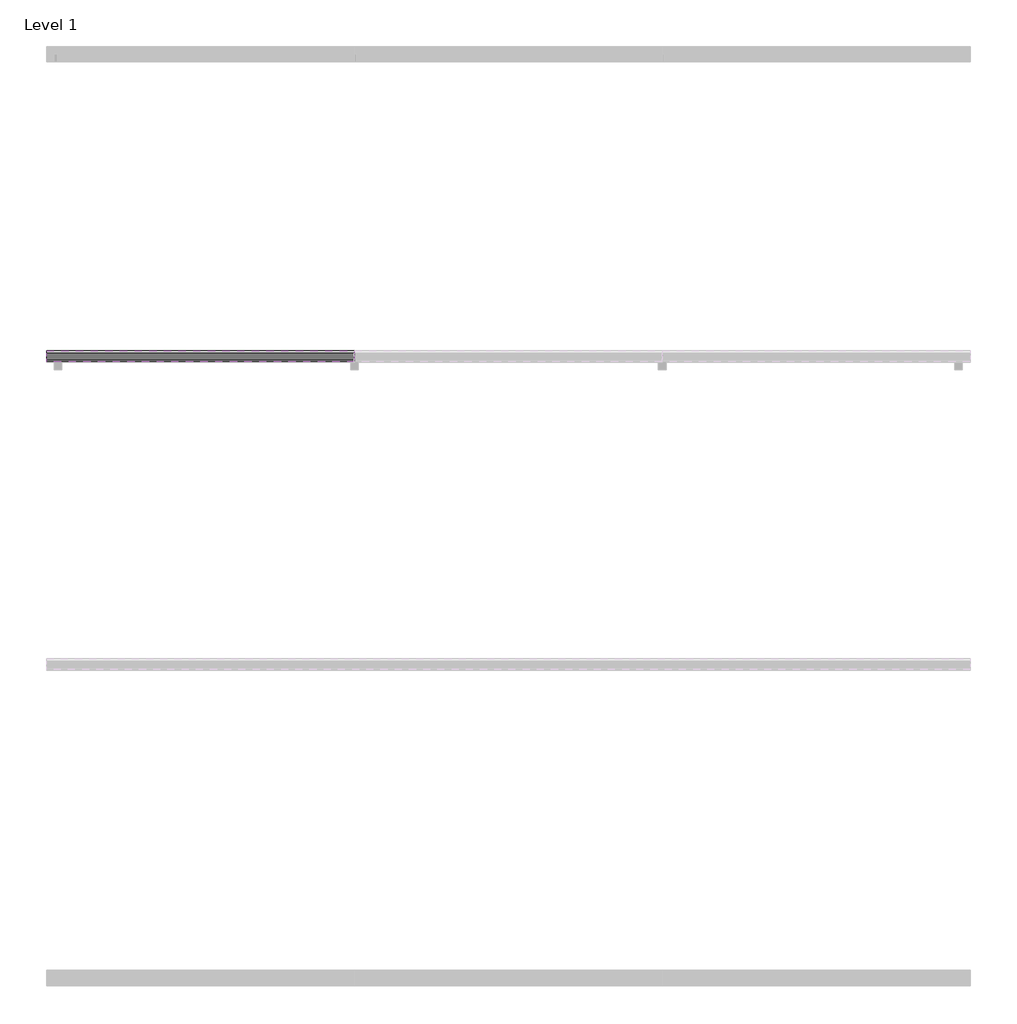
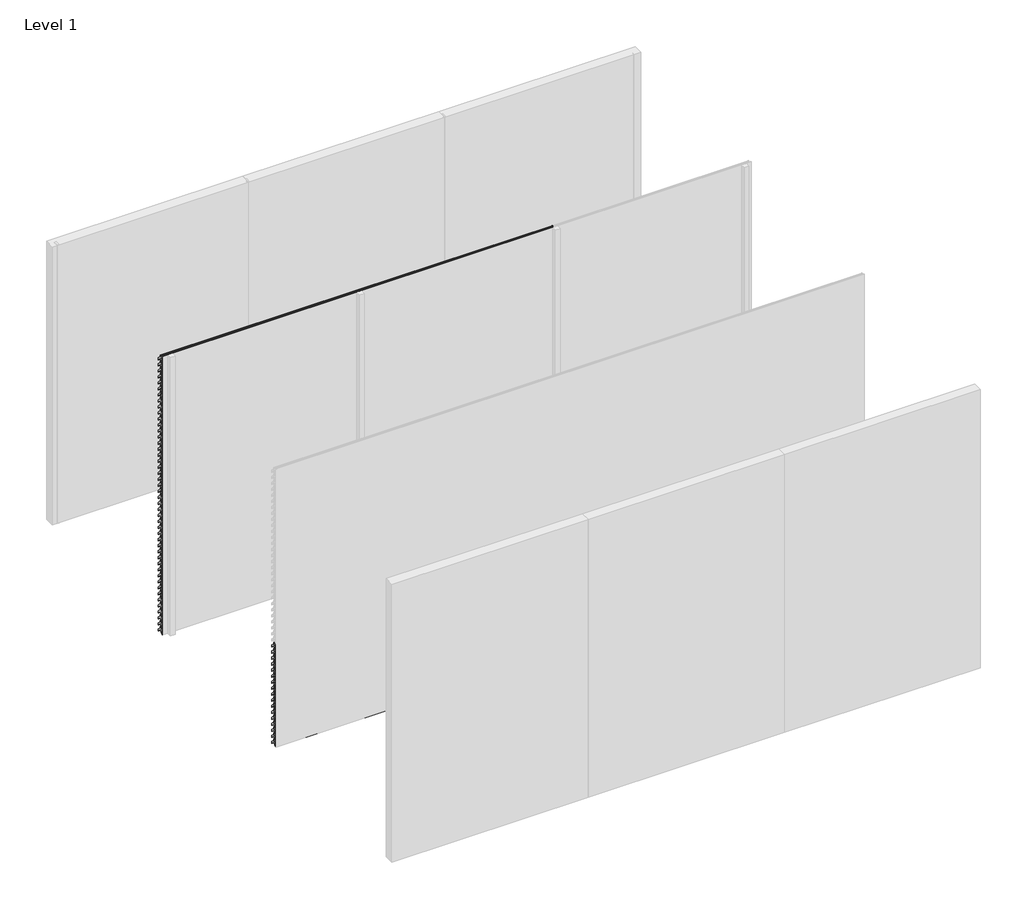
# One storey, part 4 of 9: 86 proxies.
"""IFC4 building model written with IfcOpenShell, lengths in millimetres."""

import ifcopenshell
import ifcopenshell.guid

model = None  # the IFC model being written
_history = None  # IfcOwnerHistory: only IFC2X3 demands one
_inside = {}  # id of a spatial element -> (the spatial element, [elements in it])
_under = {}  # id of a project, library or spatial element -> (it, [spatial elements below it])
_declared = {}  # id of a project -> (the project, [libraries it declares])
_typed = {}  # id of a type object -> (the type object, [elements of that type])
_made_of = {}  # id of a material, layer set ... -> (it, [elements and type objects made of it])


def new_model(schema):
    """Start an empty IFC model of exactly this schema.

    Asked for "IFC4X3", IfcOpenShell would pick the latest addendum, in which some entities
    have other attributes; the version numbers below select the first issue.
    IFC2X3 requires an IfcOwnerHistory on every rooted entity: one is made here for all.
    """
    global model, _history
    if schema == "IFC4X3":
        model = ifcopenshell.file(schema_version=(4, 3, 0, 0))
    else:
        model = ifcopenshell.file(schema=schema)
    _inside.clear()
    _under.clear()
    _declared.clear()
    _typed.clear()
    _made_of.clear()
    _history = None
    if model.schema == "IFC2X3":
        org = make("IfcOrganization", Name="unknown")
        user = make(
            "IfcPersonAndOrganization",
            ThePerson=make("IfcPerson", FamilyName="unknown"),
            TheOrganization=org,
        )
        app = make(
            "IfcApplication",
            ApplicationDeveloper=org,
            Version="unknown",
            ApplicationFullName="unknown",
            ApplicationIdentifier="unknown",
        )
        _history = make(
            "IfcOwnerHistory",
            OwningUser=user,
            OwningApplication=app,
            ChangeAction="ADDED",
            CreationDate=0,
        )
    return model


def make(cls, **values):
    """One entity of the class cls with the attributes given. An attribute that is None is left unset."""
    return model.create_entity(
        cls, **{name: value for name, value in values.items() if value is not None}
    )


def rooted(cls, **values):
    """An entity with a GlobalId (a new one), such as an element, a storey or a relation."""
    return make(cls, GlobalId=ifcopenshell.guid.new(), OwnerHistory=_history, **values)


def si_unit(unit_type, name, prefix=None):
    """IfcSIUnit, for example si_unit("LENGTHUNIT", "METRE", prefix="MILLI")."""
    return make("IfcSIUnit", UnitType=unit_type, Prefix=prefix, Name=name)


def assignment(units):
    """IfcUnitAssignment: the units of a project."""
    return None if units is None else make("IfcUnitAssignment", Units=units)


def point(xyz):
    """IfcCartesianPoint."""
    return None if xyz is None else make("IfcCartesianPoint", Coordinates=xyz)


def direction(xyz):
    """IfcDirection."""
    return None if xyz is None else make("IfcDirection", DirectionRatios=xyz)


def frame(location, z_axis=None, x_axis=None):
    """IfcAxis2Placement3D, a coordinate frame: its origin and axes. An axis left out is left unset."""
    return make(
        "IfcAxis2Placement3D",
        Location=point(location),
        Axis=direction(z_axis),
        RefDirection=direction(x_axis),
    )


def origin():
    """The frame at (0, 0, 0) with its axes left unset."""
    return frame((0.0, 0.0, 0.0))


def place(relative_to, where):
    """IfcLocalPlacement: puts the frame where relative to a parent placement (None: the world)."""
    return make(
        "IfcLocalPlacement", PlacementRelTo=relative_to, RelativePlacement=where
    )


def context(
    kind, dimensions, precision=None, world=None, true_north=None, identifier=None
):
    """IfcGeometricRepresentationContext, for example the 3D "Model" context."""
    return make(
        "IfcGeometricRepresentationContext",
        ContextIdentifier=identifier,
        ContextType=kind,
        CoordinateSpaceDimension=dimensions,
        Precision=precision,
        WorldCoordinateSystem=world,
        TrueNorth=true_north,
    )


def project(units=None, contexts=None):
    """IfcProject with its units and contexts."""
    return rooted(
        "IfcProject",
        Name="project",
        RepresentationContexts=contexts,
        UnitsInContext=assignment(units),
    )


def spatial(cls, under=None, at=None, **own):
    """A site, building, storey or space (cls), placed at a placement, below another one or the project."""
    s = rooted(cls, ObjectPlacement=at, **own)
    if under is not None:
        _under.setdefault(under.id(), (under, []))[1].append(s)
    return s


def polyline(points):
    """IfcPolyline through the points."""
    return make("IfcPolyline", Points=[point(p) for p in points])


def outline(outer, holes=None, kind="AREA"):
    """IfcArbitraryClosedProfileDef: a profile drawn as a closed curve; with holes, ...WithVoids."""
    if holes is None:
        return make("IfcArbitraryClosedProfileDef", ProfileType=kind, OuterCurve=outer)
    return make(
        "IfcArbitraryProfileDefWithVoids",
        ProfileType=kind,
        OuterCurve=outer,
        InnerCurves=holes,
    )


def extrude(swept, where, along, depth):
    """IfcExtrudedAreaSolid: the profile swept, set in the frame where, extruded along a direction by depth."""
    return make(
        "IfcExtrudedAreaSolid",
        SweptArea=swept,
        Position=where,
        ExtrudedDirection=direction(along),
        Depth=depth,
    )


def shape(context_of_items, identifier, shape_type, items):
    """IfcShapeRepresentation: the items that make up one representation, for example the "Body"."""
    return make(
        "IfcShapeRepresentation",
        ContextOfItems=context_of_items,
        RepresentationIdentifier=identifier,
        RepresentationType=shape_type,
        Items=items,
    )


def made_of(thing, what):
    """Note that an element or type object is made of a material, layer set ...; save() writes the relation."""
    if what is not None:
        _made_of.setdefault(what.id(), (what, []))[1].append(thing)
    return thing


def element(
    cls,
    number,
    at=None,
    inside=None,
    cuts=None,
    type_object=None,
    material=None,
    context=None,
    identifier="Body",
    shape_type=None,
    held_by="IfcProductDefinitionShape",
    body=None,
    shapes=None,
    **own,
):
    """One element of the class cls, such as IfcWall. Its Tag is "e" and its number.

    at: its placement. inside: the storey or other place that contains it. cuts: it is an
    opening in that element (IfcRelVoidsElement). A single representation is given by context,
    identifier, shape_type and body (its items); several are given by shapes. held_by: the class
    of the entity that holds the representations. save() writes the other relations.
    """
    e = rooted(cls, Tag="e%d" % number, ObjectPlacement=at, **own)
    if body is not None:
        shapes = [shape(context, identifier, shape_type, body)]
    if shapes is not None:
        e.Representation = make(held_by, Representations=shapes)
    if inside is not None:
        _inside.setdefault(inside.id(), (inside, []))[1].append(e)
    if cuts is not None:
        rooted(
            "IfcRelVoidsElement", RelatingBuildingElement=cuts, RelatedOpeningElement=e
        )
    if type_object is not None:
        _typed.setdefault(type_object.id(), (type_object, []))[1].append(e)
    return made_of(e, material)


def aggregate(whole, parts):
    """IfcRelAggregates: a whole, such as a stair, and the parts it consists of."""
    return rooted("IfcRelAggregates", RelatingObject=whole, RelatedObjects=parts)


def save(model, path):
    """Write the relations noted so far, then the file.

    IfcRelAggregates (storeys below a building ...), IfcRelContainedInSpatialStructure (elements
    in a storey), IfcRelDefinesByType, IfcRelAssociatesMaterial and IfcRelDeclares: one each for
    every whole, place, type object, material and project.
    """
    for whole, parts in _under.values():
        aggregate(whole, parts)
    for where, things in _inside.values():
        rooted(
            "IfcRelContainedInSpatialStructure",
            RelatedElements=things,
            RelatingStructure=where,
        )
    for kind, things in _typed.values():
        rooted("IfcRelDefinesByType", RelatedObjects=things, RelatingType=kind)
    for what, things in _made_of.values():
        rooted("IfcRelAssociatesMaterial", RelatedObjects=things, RelatingMaterial=what)
    for by, libraries in _declared.values():
        rooted("IfcRelDeclares", RelatingContext=by, RelatedDefinitions=libraries)
    model.write(path)


model = new_model("IFC4")

# Units and contexts
model_context = context("Model", 3, world=origin())
ifc_project = project(units=[si_unit("LENGTHUNIT", "METRE", prefix="MILLI")], contexts=[model_context])

# Site, building, storey
site = spatial("IfcSite", under=ifc_project)
building = spatial("IfcBuilding", under=site)
storey = spatial("IfcBuildingStorey", under=building, Name="Level 1", Elevation=0.0)

# Proxies
placement = place(None, origin())
element("IfcBuildingElementProxy", 1, Name="Wall Sweeps", at=placement, inside=storey, context=model_context, shape_type="SweptSolid", body=[
    extrude(outline(polyline([(-11926.0, 2942.0), (-11926.0, 2919.0), (-11961.5, 2954.5), (-11997.0, 2919.0), (-11997.0, 2942.0), (-11962.5, 2976.5), (-11962.5, 2990.0), (-11960.5, 2990.0), (-11960.5, 2976.5), (-11926.0, 2942.0)])), frame((0.0, 0.0, 0.0), z_axis=(1.0, 0.0, 0.0), x_axis=(0.0, 1.0, 0.0)), (0.0, 0.0, 1.0), 2000.0),
])
element("IfcBuildingElementProxy", 2, Name="Wall Sweeps", at=placement, inside=storey, context=model_context, shape_type="SweptSolid", body=[
    extrude(outline(polyline([(-11926.0, 2877.0), (-11926.0, 2854.0), (-11961.5, 2889.5), (-11997.0, 2854.0), (-11997.0, 2877.0), (-11962.5, 2911.5), (-11962.5, 2925.0), (-11960.5, 2925.0), (-11960.5, 2911.5), (-11926.0, 2877.0)])), frame((0.0, 0.0, 0.0), z_axis=(1.0, 0.0, 0.0), x_axis=(0.0, 1.0, 0.0)), (0.0, 0.0, 1.0), 2000.0),
])
element("IfcBuildingElementProxy", 3, Name="Wall Sweeps", at=placement, inside=storey, context=model_context, shape_type="SweptSolid", body=[
    extrude(outline(polyline([(-11926.0, 2812.0), (-11926.0, 2789.0), (-11961.5, 2824.5), (-11997.0, 2789.0), (-11997.0, 2812.0), (-11962.5, 2846.5), (-11962.5, 2860.0), (-11960.5, 2860.0), (-11960.5, 2846.5), (-11926.0, 2812.0)])), frame((0.0, 0.0, 0.0), z_axis=(1.0, 0.0, 0.0), x_axis=(0.0, 1.0, 0.0)), (0.0, 0.0, 1.0), 2000.0),
])
element("IfcBuildingElementProxy", 4, Name="Wall Sweeps", at=placement, inside=storey, context=model_context, shape_type="SweptSolid", body=[
    extrude(outline(polyline([(-11926.0, 2747.0), (-11926.0, 2724.0), (-11961.5, 2759.5), (-11997.0, 2724.0), (-11997.0, 2747.0), (-11962.5, 2781.5), (-11962.5, 2795.0), (-11960.5, 2795.0), (-11960.5, 2781.5), (-11926.0, 2747.0)])), frame((0.0, 0.0, 0.0), z_axis=(1.0, 0.0, 0.0), x_axis=(0.0, 1.0, 0.0)), (0.0, 0.0, 1.0), 2000.0),
])
element("IfcBuildingElementProxy", 5, Name="Wall Sweeps", at=placement, inside=storey, context=model_context, shape_type="SweptSolid", body=[
    extrude(outline(polyline([(-11926.0, 2682.0), (-11926.0, 2659.0), (-11961.5, 2694.5), (-11997.0, 2659.0), (-11997.0, 2682.0), (-11962.5, 2716.5), (-11962.5, 2730.0), (-11960.5, 2730.0), (-11960.5, 2716.5), (-11926.0, 2682.0)])), frame((0.0, 0.0, 0.0), z_axis=(1.0, 0.0, 0.0), x_axis=(0.0, 1.0, 0.0)), (0.0, 0.0, 1.0), 2000.0),
])
element("IfcBuildingElementProxy", 6, Name="Wall Sweeps", at=placement, inside=storey, context=model_context, shape_type="SweptSolid", body=[
    extrude(outline(polyline([(-11926.0, 2617.0), (-11926.0, 2594.0), (-11961.5, 2629.5), (-11997.0, 2594.0), (-11997.0, 2617.0), (-11962.5, 2651.5), (-11962.5, 2665.0), (-11960.5, 2665.0), (-11960.5, 2651.5), (-11926.0, 2617.0)])), frame((0.0, 0.0, 0.0), z_axis=(1.0, 0.0, 0.0), x_axis=(0.0, 1.0, 0.0)), (0.0, 0.0, 1.0), 2000.0),
])
element("IfcBuildingElementProxy", 7, Name="Wall Sweeps", at=placement, inside=storey, context=model_context, shape_type="SweptSolid", body=[
    extrude(outline(polyline([(-11926.0, 2552.0), (-11926.0, 2529.0), (-11961.5, 2564.5), (-11997.0, 2529.0), (-11997.0, 2552.0), (-11962.5, 2586.5), (-11962.5, 2600.0), (-11960.5, 2600.0), (-11960.5, 2586.5), (-11926.0, 2552.0)])), frame((0.0, 0.0, 0.0), z_axis=(1.0, 0.0, 0.0), x_axis=(0.0, 1.0, 0.0)), (0.0, 0.0, 1.0), 2000.0),
])
element("IfcBuildingElementProxy", 8, Name="Wall Sweeps", at=placement, inside=storey, context=model_context, shape_type="SweptSolid", body=[
    extrude(outline(polyline([(-11926.0, 2487.0), (-11926.0, 2464.0), (-11961.5, 2499.5), (-11997.0, 2464.0), (-11997.0, 2487.0), (-11962.5, 2521.5), (-11962.5, 2535.0), (-11960.5, 2535.0), (-11960.5, 2521.5), (-11926.0, 2487.0)])), frame((0.0, 0.0, 0.0), z_axis=(1.0, 0.0, 0.0), x_axis=(0.0, 1.0, 0.0)), (0.0, 0.0, 1.0), 2000.0),
])
element("IfcBuildingElementProxy", 9, Name="Wall Sweeps", at=placement, inside=storey, context=model_context, shape_type="SweptSolid", body=[
    extrude(outline(polyline([(-11926.0, 2422.0), (-11926.0, 2399.0), (-11961.5, 2434.5), (-11997.0, 2399.0), (-11997.0, 2422.0), (-11962.5, 2456.5), (-11962.5, 2470.0), (-11960.5, 2470.0), (-11960.5, 2456.5), (-11926.0, 2422.0)])), frame((0.0, 0.0, 0.0), z_axis=(1.0, 0.0, 0.0), x_axis=(0.0, 1.0, 0.0)), (0.0, 0.0, 1.0), 2000.0),
])
element("IfcBuildingElementProxy", 10, Name="Wall Sweeps", at=placement, inside=storey, context=model_context, shape_type="SweptSolid", body=[
    extrude(outline(polyline([(-11926.0, 2357.0), (-11926.0, 2334.0), (-11961.5, 2369.5), (-11997.0, 2334.0), (-11997.0, 2357.0), (-11962.5, 2391.5), (-11962.5, 2405.0), (-11960.5, 2405.0), (-11960.5, 2391.5), (-11926.0, 2357.0)])), frame((0.0, 0.0, 0.0), z_axis=(1.0, 0.0, 0.0), x_axis=(0.0, 1.0, 0.0)), (0.0, 0.0, 1.0), 2000.0),
])
element("IfcBuildingElementProxy", 11, Name="Wall Sweeps", at=placement, inside=storey, context=model_context, shape_type="SweptSolid", body=[
    extrude(outline(polyline([(-11926.0, 2292.0), (-11926.0, 2269.0), (-11961.5, 2304.5), (-11997.0, 2269.0), (-11997.0, 2292.0), (-11962.5, 2326.5), (-11962.5, 2340.0), (-11960.5, 2340.0), (-11960.5, 2326.5), (-11926.0, 2292.0)])), frame((0.0, 0.0, 0.0), z_axis=(1.0, 0.0, 0.0), x_axis=(0.0, 1.0, 0.0)), (0.0, 0.0, 1.0), 2000.0),
])
element("IfcBuildingElementProxy", 12, Name="Wall Sweeps", at=placement, inside=storey, context=model_context, shape_type="SweptSolid", body=[
    extrude(outline(polyline([(-11926.0, 2227.0), (-11926.0, 2204.0), (-11961.5, 2239.5), (-11997.0, 2204.0), (-11997.0, 2227.0), (-11962.5, 2261.5), (-11962.5, 2275.0), (-11960.5, 2275.0), (-11960.5, 2261.5), (-11926.0, 2227.0)])), frame((0.0, 0.0, 0.0), z_axis=(1.0, 0.0, 0.0), x_axis=(0.0, 1.0, 0.0)), (0.0, 0.0, 1.0), 2000.0),
])
element("IfcBuildingElementProxy", 13, Name="Wall Sweeps", at=placement, inside=storey, context=model_context, shape_type="SweptSolid", body=[
    extrude(outline(polyline([(-11926.0, 2162.0), (-11926.0, 2139.0), (-11961.5, 2174.5), (-11997.0, 2139.0), (-11997.0, 2162.0), (-11962.5, 2196.5), (-11962.5, 2210.0), (-11960.5, 2210.0), (-11960.5, 2196.5), (-11926.0, 2162.0)])), frame((0.0, 0.0, 0.0), z_axis=(1.0, 0.0, 0.0), x_axis=(0.0, 1.0, 0.0)), (0.0, 0.0, 1.0), 2000.0),
])
element("IfcBuildingElementProxy", 14, Name="Wall Sweeps", at=placement, inside=storey, context=model_context, shape_type="SweptSolid", body=[
    extrude(outline(polyline([(-11926.0, 2097.0), (-11926.0, 2074.0), (-11961.5, 2109.5), (-11997.0, 2074.0), (-11997.0, 2097.0), (-11962.5, 2131.5), (-11962.5, 2145.0), (-11960.5, 2145.0), (-11960.5, 2131.5), (-11926.0, 2097.0)])), frame((0.0, 0.0, 0.0), z_axis=(1.0, 0.0, 0.0), x_axis=(0.0, 1.0, 0.0)), (0.0, 0.0, 1.0), 2000.0),
])
element("IfcBuildingElementProxy", 15, Name="Wall Sweeps", at=placement, inside=storey, context=model_context, shape_type="SweptSolid", body=[
    extrude(outline(polyline([(-11926.0, 2032.0), (-11926.0, 2009.0), (-11961.5, 2044.5), (-11997.0, 2009.0), (-11997.0, 2032.0), (-11962.5, 2066.5), (-11962.5, 2080.0), (-11960.5, 2080.0), (-11960.5, 2066.5), (-11926.0, 2032.0)])), frame((0.0, 0.0, 0.0), z_axis=(1.0, 0.0, 0.0), x_axis=(0.0, 1.0, 0.0)), (0.0, 0.0, 1.0), 2000.0),
])
element("IfcBuildingElementProxy", 16, Name="Wall Sweeps", at=placement, inside=storey, context=model_context, shape_type="SweptSolid", body=[
    extrude(outline(polyline([(-11926.0, 1967.0), (-11926.0, 1944.0), (-11961.5, 1979.5), (-11997.0, 1944.0), (-11997.0, 1967.0), (-11962.5, 2001.5), (-11962.5, 2015.0), (-11960.5, 2015.0), (-11960.5, 2001.5), (-11926.0, 1967.0)])), frame((0.0, 0.0, 0.0), z_axis=(1.0, 0.0, 0.0), x_axis=(0.0, 1.0, 0.0)), (0.0, 0.0, 1.0), 2000.0),
])
element("IfcBuildingElementProxy", 17, Name="Wall Sweeps", at=placement, inside=storey, context=model_context, shape_type="SweptSolid", body=[
    extrude(outline(polyline([(-11926.0, 1902.0), (-11926.0, 1879.0), (-11961.5, 1914.5), (-11997.0, 1879.0), (-11997.0, 1902.0), (-11962.5, 1936.5), (-11962.5, 1950.0), (-11960.5, 1950.0), (-11960.5, 1936.5), (-11926.0, 1902.0)])), frame((0.0, 0.0, 0.0), z_axis=(1.0, 0.0, 0.0), x_axis=(0.0, 1.0, 0.0)), (0.0, 0.0, 1.0), 2000.0),
])
element("IfcBuildingElementProxy", 18, Name="Wall Sweeps", at=placement, inside=storey, context=model_context, shape_type="SweptSolid", body=[
    extrude(outline(polyline([(-11926.0, 1837.0), (-11926.0, 1814.0), (-11961.5, 1849.5), (-11997.0, 1814.0), (-11997.0, 1837.0), (-11962.5, 1871.5), (-11962.5, 1885.0), (-11960.5, 1885.0), (-11960.5, 1871.5), (-11926.0, 1837.0)])), frame((0.0, 0.0, 0.0), z_axis=(1.0, 0.0, 0.0), x_axis=(0.0, 1.0, 0.0)), (0.0, 0.0, 1.0), 2000.0),
])
element("IfcBuildingElementProxy", 19, Name="Wall Sweeps", at=placement, inside=storey, context=model_context, shape_type="SweptSolid", body=[
    extrude(outline(polyline([(-11926.0, 1772.0), (-11926.0, 1749.0), (-11961.5, 1784.5), (-11997.0, 1749.0), (-11997.0, 1772.0), (-11962.5, 1806.5), (-11962.5, 1820.0), (-11960.5, 1820.0), (-11960.5, 1806.5), (-11926.0, 1772.0)])), frame((0.0, 0.0, 0.0), z_axis=(1.0, 0.0, 0.0), x_axis=(0.0, 1.0, 0.0)), (0.0, 0.0, 1.0), 2000.0),
])
element("IfcBuildingElementProxy", 20, Name="Wall Sweeps", at=placement, inside=storey, context=model_context, shape_type="SweptSolid", body=[
    extrude(outline(polyline([(-11926.0, 1707.0), (-11926.0, 1684.0), (-11961.5, 1719.5), (-11997.0, 1684.0), (-11997.0, 1707.0), (-11962.5, 1741.5), (-11962.5, 1755.0), (-11960.5, 1755.0), (-11960.5, 1741.5), (-11926.0, 1707.0)])), frame((0.0, 0.0, 0.0), z_axis=(1.0, 0.0, 0.0), x_axis=(0.0, 1.0, 0.0)), (0.0, 0.0, 1.0), 2000.0),
])
element("IfcBuildingElementProxy", 21, Name="Wall Sweeps", at=placement, inside=storey, context=model_context, shape_type="SweptSolid", body=[
    extrude(outline(polyline([(-11926.0, 1642.0), (-11926.0, 1619.0), (-11961.5, 1654.5), (-11997.0, 1619.0), (-11997.0, 1642.0), (-11962.5, 1676.5), (-11962.5, 1690.0), (-11960.5, 1690.0), (-11960.5, 1676.5), (-11926.0, 1642.0)])), frame((0.0, 0.0, 0.0), z_axis=(1.0, 0.0, 0.0), x_axis=(0.0, 1.0, 0.0)), (0.0, 0.0, 1.0), 2000.0),
])
element("IfcBuildingElementProxy", 22, Name="Wall Sweeps", at=placement, inside=storey, context=model_context, shape_type="SweptSolid", body=[
    extrude(outline(polyline([(-11926.0, 1577.0), (-11926.0, 1554.0), (-11961.5, 1589.5), (-11997.0, 1554.0), (-11997.0, 1577.0), (-11962.5, 1611.5), (-11962.5, 1625.0), (-11960.5, 1625.0), (-11960.5, 1611.5), (-11926.0, 1577.0)])), frame((0.0, 0.0, 0.0), z_axis=(1.0, 0.0, 0.0), x_axis=(0.0, 1.0, 0.0)), (0.0, 0.0, 1.0), 2000.0),
])
element("IfcBuildingElementProxy", 23, Name="Wall Sweeps", at=placement, inside=storey, context=model_context, shape_type="SweptSolid", body=[
    extrude(outline(polyline([(-11926.0, 1512.0), (-11926.0, 1489.0), (-11961.5, 1524.5), (-11997.0, 1489.0), (-11997.0, 1512.0), (-11962.5, 1546.5), (-11962.5, 1560.0), (-11960.5, 1560.0), (-11960.5, 1546.5), (-11926.0, 1512.0)])), frame((0.0, 0.0, 0.0), z_axis=(1.0, 0.0, 0.0), x_axis=(0.0, 1.0, 0.0)), (0.0, 0.0, 1.0), 2000.0),
])
element("IfcBuildingElementProxy", 24, Name="Wall Sweeps", at=placement, inside=storey, context=model_context, shape_type="SweptSolid", body=[
    extrude(outline(polyline([(-11926.0, 1447.0), (-11926.0, 1424.0), (-11961.5, 1459.5), (-11997.0, 1424.0), (-11997.0, 1447.0), (-11962.5, 1481.5), (-11962.5, 1495.0), (-11960.5, 1495.0), (-11960.5, 1481.5), (-11926.0, 1447.0)])), frame((0.0, 0.0, 0.0), z_axis=(1.0, 0.0, 0.0), x_axis=(0.0, 1.0, 0.0)), (0.0, 0.0, 1.0), 2000.0),
])
element("IfcBuildingElementProxy", 25, Name="Wall Sweeps", at=placement, inside=storey, context=model_context, shape_type="SweptSolid", body=[
    extrude(outline(polyline([(-11926.0, 1382.0), (-11926.0, 1359.0), (-11961.5, 1394.5), (-11997.0, 1359.0), (-11997.0, 1382.0), (-11962.5, 1416.5), (-11962.5, 1430.0), (-11960.5, 1430.0), (-11960.5, 1416.5), (-11926.0, 1382.0)])), frame((0.0, 0.0, 0.0), z_axis=(1.0, 0.0, 0.0), x_axis=(0.0, 1.0, 0.0)), (0.0, 0.0, 1.0), 2000.0),
])
element("IfcBuildingElementProxy", 26, Name="Wall Sweeps", at=placement, inside=storey, context=model_context, shape_type="SweptSolid", body=[
    extrude(outline(polyline([(-11926.0, 1317.0), (-11926.0, 1294.0), (-11961.5, 1329.5), (-11997.0, 1294.0), (-11997.0, 1317.0), (-11962.5, 1351.5), (-11962.5, 1365.0), (-11960.5, 1365.0), (-11960.5, 1351.5), (-11926.0, 1317.0)])), frame((0.0, 0.0, 0.0), z_axis=(1.0, 0.0, 0.0), x_axis=(0.0, 1.0, 0.0)), (0.0, 0.0, 1.0), 2000.0),
])
element("IfcBuildingElementProxy", 27, Name="Wall Sweeps", at=placement, inside=storey, context=model_context, shape_type="SweptSolid", body=[
    extrude(outline(polyline([(-11926.0, 1252.0), (-11926.0, 1229.0), (-11961.5, 1264.5), (-11997.0, 1229.0), (-11997.0, 1252.0), (-11962.5, 1286.5), (-11962.5, 1300.0), (-11960.5, 1300.0), (-11960.5, 1286.5), (-11926.0, 1252.0)])), frame((0.0, 0.0, 0.0), z_axis=(1.0, 0.0, 0.0), x_axis=(0.0, 1.0, 0.0)), (0.0, 0.0, 1.0), 2000.0),
])
element("IfcBuildingElementProxy", 28, Name="Wall Sweeps", at=placement, inside=storey, context=model_context, shape_type="SweptSolid", body=[
    extrude(outline(polyline([(-11926.0, 1187.0), (-11926.0, 1164.0), (-11961.5, 1199.5), (-11997.0, 1164.0), (-11997.0, 1187.0), (-11962.5, 1221.5), (-11962.5, 1235.0), (-11960.5, 1235.0), (-11960.5, 1221.5), (-11926.0, 1187.0)])), frame((0.0, 0.0, 0.0), z_axis=(1.0, 0.0, 0.0), x_axis=(0.0, 1.0, 0.0)), (0.0, 0.0, 1.0), 2000.0),
])
element("IfcBuildingElementProxy", 29, Name="Wall Sweeps", at=placement, inside=storey, context=model_context, shape_type="SweptSolid", body=[
    extrude(outline(polyline([(-11926.0, 1122.0), (-11926.0, 1099.0), (-11961.5, 1134.5), (-11997.0, 1099.0), (-11997.0, 1122.0), (-11962.5, 1156.5), (-11962.5, 1170.0), (-11960.5, 1170.0), (-11960.5, 1156.5), (-11926.0, 1122.0)])), frame((0.0, 0.0, 0.0), z_axis=(1.0, 0.0, 0.0), x_axis=(0.0, 1.0, 0.0)), (0.0, 0.0, 1.0), 2000.0),
])
element("IfcBuildingElementProxy", 30, Name="Wall Sweeps", at=placement, inside=storey, context=model_context, shape_type="SweptSolid", body=[
    extrude(outline(polyline([(-11926.0, 1057.0), (-11926.0, 1034.0), (-11961.5, 1069.5), (-11997.0, 1034.0), (-11997.0, 1057.0), (-11962.5, 1091.5), (-11962.5, 1105.0), (-11960.5, 1105.0), (-11960.5, 1091.5), (-11926.0, 1057.0)])), frame((0.0, 0.0, 0.0), z_axis=(1.0, 0.0, 0.0), x_axis=(0.0, 1.0, 0.0)), (0.0, 0.0, 1.0), 2000.0),
])
element("IfcBuildingElementProxy", 31, Name="Wall Sweeps", at=placement, inside=storey, context=model_context, shape_type="SweptSolid", body=[
    extrude(outline(polyline([(-11926.0, 992.0), (-11926.0, 969.0), (-11961.5, 1004.5), (-11997.0, 969.0), (-11997.0, 992.0), (-11962.5, 1026.5), (-11962.5, 1040.0), (-11960.5, 1040.0), (-11960.5, 1026.5), (-11926.0, 992.0)])), frame((0.0, 0.0, 0.0), z_axis=(1.0, 0.0, 0.0), x_axis=(0.0, 1.0, 0.0)), (0.0, 0.0, 1.0), 2000.0),
])
element("IfcBuildingElementProxy", 32, Name="Wall Sweeps", at=placement, inside=storey, context=model_context, shape_type="SweptSolid", body=[
    extrude(outline(polyline([(-11926.0, 927.0), (-11926.0, 904.0), (-11961.5, 939.5), (-11997.0, 904.0), (-11997.0, 927.0), (-11962.5, 961.5), (-11962.5, 975.0), (-11960.5, 975.0), (-11960.5, 961.5), (-11926.0, 927.0)])), frame((0.0, 0.0, 0.0), z_axis=(1.0, 0.0, 0.0), x_axis=(0.0, 1.0, 0.0)), (0.0, 0.0, 1.0), 2000.0),
])
element("IfcBuildingElementProxy", 33, Name="Wall Sweeps", at=placement, inside=storey, context=model_context, shape_type="SweptSolid", body=[
    extrude(outline(polyline([(-11926.0, 862.0), (-11926.0, 839.0), (-11961.5, 874.5), (-11997.0, 839.0), (-11997.0, 862.0), (-11962.5, 896.5), (-11962.5, 910.0), (-11960.5, 910.0), (-11960.5, 896.5), (-11926.0, 862.0)])), frame((0.0, 0.0, 0.0), z_axis=(1.0, 0.0, 0.0), x_axis=(0.0, 1.0, 0.0)), (0.0, 0.0, 1.0), 2000.0),
])
element("IfcBuildingElementProxy", 34, Name="Wall Sweeps", at=placement, inside=storey, context=model_context, shape_type="SweptSolid", body=[
    extrude(outline(polyline([(-11926.0, 797.0), (-11926.0, 774.0), (-11961.5, 809.5), (-11997.0, 774.0), (-11997.0, 797.0), (-11962.5, 831.5), (-11962.5, 845.0), (-11960.5, 845.0), (-11960.5, 831.5), (-11926.0, 797.0)])), frame((0.0, 0.0, 0.0), z_axis=(1.0, 0.0, 0.0), x_axis=(0.0, 1.0, 0.0)), (0.0, 0.0, 1.0), 2000.0),
])
element("IfcBuildingElementProxy", 35, Name="Wall Sweeps", at=placement, inside=storey, context=model_context, shape_type="SweptSolid", body=[
    extrude(outline(polyline([(-11926.0, 732.0), (-11926.0, 709.0), (-11961.5, 744.5), (-11997.0, 709.0), (-11997.0, 732.0), (-11962.5, 766.5), (-11962.5, 780.0), (-11960.5, 780.0), (-11960.5, 766.5), (-11926.0, 732.0)])), frame((0.0, 0.0, 0.0), z_axis=(1.0, 0.0, 0.0), x_axis=(0.0, 1.0, 0.0)), (0.0, 0.0, 1.0), 2000.0),
])
element("IfcBuildingElementProxy", 36, Name="Wall Sweeps", at=placement, inside=storey, context=model_context, shape_type="SweptSolid", body=[
    extrude(outline(polyline([(-11926.0, 667.0), (-11926.0, 644.0), (-11961.5, 679.5), (-11997.0, 644.0), (-11997.0, 667.0), (-11962.5, 701.5), (-11962.5, 715.0), (-11960.5, 715.0), (-11960.5, 701.5), (-11926.0, 667.0)])), frame((0.0, 0.0, 0.0), z_axis=(1.0, 0.0, 0.0), x_axis=(0.0, 1.0, 0.0)), (0.0, 0.0, 1.0), 2000.0),
])
element("IfcBuildingElementProxy", 37, Name="Wall Sweeps", at=placement, inside=storey, context=model_context, shape_type="SweptSolid", body=[
    extrude(outline(polyline([(-11926.0, 602.0), (-11926.0, 579.0), (-11961.5, 614.5), (-11997.0, 579.0), (-11997.0, 602.0), (-11962.5, 636.5), (-11962.5, 650.0), (-11960.5, 650.0), (-11960.5, 636.5), (-11926.0, 602.0)])), frame((0.0, 0.0, 0.0), z_axis=(1.0, 0.0, 0.0), x_axis=(0.0, 1.0, 0.0)), (0.0, 0.0, 1.0), 2000.0),
])
element("IfcBuildingElementProxy", 38, Name="Wall Sweeps", at=placement, inside=storey, context=model_context, shape_type="SweptSolid", body=[
    extrude(outline(polyline([(-11926.0, 537.0), (-11926.0, 514.0), (-11961.5, 549.5), (-11997.0, 514.0), (-11997.0, 537.0), (-11962.5, 571.5), (-11962.5, 585.0), (-11960.5, 585.0), (-11960.5, 571.5), (-11926.0, 537.0)])), frame((0.0, 0.0, 0.0), z_axis=(1.0, 0.0, 0.0), x_axis=(0.0, 1.0, 0.0)), (0.0, 0.0, 1.0), 2000.0),
])
element("IfcBuildingElementProxy", 39, Name="Wall Sweeps", at=placement, inside=storey, context=model_context, shape_type="SweptSolid", body=[
    extrude(outline(polyline([(-11926.0, 472.0), (-11926.0, 449.0), (-11961.5, 484.5), (-11997.0, 449.0), (-11997.0, 472.0), (-11962.5, 506.5), (-11962.5, 520.0), (-11960.5, 520.0), (-11960.5, 506.5), (-11926.0, 472.0)])), frame((0.0, 0.0, 0.0), z_axis=(1.0, 0.0, 0.0), x_axis=(0.0, 1.0, 0.0)), (0.0, 0.0, 1.0), 2000.0),
])
element("IfcBuildingElementProxy", 40, Name="Wall Sweeps", at=placement, inside=storey, context=model_context, shape_type="SweptSolid", body=[
    extrude(outline(polyline([(-11926.0, 407.0), (-11926.0, 384.0), (-11961.5, 419.5), (-11997.0, 384.0), (-11997.0, 407.0), (-11962.5, 441.5), (-11962.5, 455.0), (-11960.5, 455.0), (-11960.5, 441.5), (-11926.0, 407.0)])), frame((0.0, 0.0, 0.0), z_axis=(1.0, 0.0, 0.0), x_axis=(0.0, 1.0, 0.0)), (0.0, 0.0, 1.0), 2000.0),
])
element("IfcBuildingElementProxy", 41, Name="Wall Sweeps", at=placement, inside=storey, context=model_context, shape_type="SweptSolid", body=[
    extrude(outline(polyline([(-11926.0, 342.0), (-11926.0, 319.0), (-11961.5, 354.5), (-11997.0, 319.0), (-11997.0, 342.0), (-11962.5, 376.5), (-11962.5, 390.0), (-11960.5, 390.0), (-11960.5, 376.5), (-11926.0, 342.0)])), frame((0.0, 0.0, 0.0), z_axis=(1.0, 0.0, 0.0), x_axis=(0.0, 1.0, 0.0)), (0.0, 0.0, 1.0), 2000.0),
])
element("IfcBuildingElementProxy", 42, Name="Wall Sweeps", at=placement, inside=storey, context=model_context, shape_type="SweptSolid", body=[
    extrude(outline(polyline([(-11926.0, 277.0), (-11926.0, 254.0), (-11961.5, 289.5), (-11997.0, 254.0), (-11997.0, 277.0), (-11962.5, 311.5), (-11962.5, 325.0), (-11960.5, 325.0), (-11960.5, 311.5), (-11926.0, 277.0)])), frame((0.0, 0.0, 0.0), z_axis=(1.0, 0.0, 0.0), x_axis=(0.0, 1.0, 0.0)), (0.0, 0.0, 1.0), 2000.0),
])
element("IfcBuildingElementProxy", 43, Name="Wall Sweeps", at=placement, inside=storey, context=model_context, shape_type="SweptSolid", body=[
    extrude(outline(polyline([(-11926.0, 212.0), (-11926.0, 189.0), (-11961.5, 224.5), (-11997.0, 189.0), (-11997.0, 212.0), (-11962.5, 246.5), (-11962.5, 260.0), (-11960.5, 260.0), (-11960.5, 246.5), (-11926.0, 212.0)])), frame((0.0, 0.0, 0.0), z_axis=(1.0, 0.0, 0.0), x_axis=(0.0, 1.0, 0.0)), (0.0, 0.0, 1.0), 2000.0),
])
element("IfcBuildingElementProxy", 44, Name="Wall Sweeps", at=placement, inside=storey, context=model_context, shape_type="SweptSolid", body=[
    extrude(outline(polyline([(-11926.0, 147.0), (-11926.0, 124.0), (-11961.5, 159.5), (-11997.0, 124.0), (-11997.0, 147.0), (-11962.5, 181.5), (-11962.5, 195.0), (-11960.5, 195.0), (-11960.5, 181.5), (-11926.0, 147.0)])), frame((0.0, 0.0, 0.0), z_axis=(1.0, 0.0, 0.0), x_axis=(0.0, 1.0, 0.0)), (0.0, 0.0, 1.0), 2000.0),
])
element("IfcBuildingElementProxy", 45, Name="Wall Sweeps", at=placement, inside=storey, context=model_context, shape_type="SweptSolid", body=[
    extrude(outline(polyline([(-11926.0, 82.0), (-11926.0, 59.0), (-11961.5, 94.5), (-11997.0, 59.0), (-11997.0, 82.0), (-11962.5, 116.5), (-11962.5, 130.0), (-11960.5, 130.0), (-11960.5, 116.5), (-11926.0, 82.0)])), frame((0.0, 0.0, 0.0), z_axis=(1.0, 0.0, 0.0), x_axis=(0.0, 1.0, 0.0)), (0.0, 0.0, 1.0), 2000.0),
])
element("IfcBuildingElementProxy", 46, Name="Wall Sweeps", at=placement, inside=storey, context=model_context, shape_type="SweptSolid", body=[
    extrude(outline(polyline([(-11926.0, 17.0), (-11926.0, -6.0), (-11961.5, 29.5), (-11997.0, -6.0), (-11997.0, 17.0), (-11962.5, 51.5), (-11962.5, 65.0), (-11960.5, 65.0), (-11960.5, 51.5), (-11926.0, 17.0)])), frame((0.0, 0.0, 0.0), z_axis=(1.0, 0.0, 0.0), x_axis=(0.0, 1.0, 0.0)), (0.0, 0.0, 1.0), 2000.0),
])
element("IfcBuildingElementProxy", 47, Name="Wall Sweeps", at=placement, inside=storey, context=model_context, shape_type="SweptSolid", body=[
    extrude(outline(polyline([(-11926.0, 2942.0), (-11926.0, 2919.0), (-11961.5, 2954.5), (-11997.0, 2919.0), (-11997.0, 2942.0), (-11962.5, 2976.5), (-11962.5, 2990.0), (-11960.5, 2990.0), (-11960.5, 2976.5), (-11926.0, 2942.0)])), frame((2000.0, 0.0, 0.0), z_axis=(1.0, 0.0, 0.0), x_axis=(0.0, 1.0, 0.0)), (0.0, 0.0, 1.0), 2000.0),
])
element("IfcBuildingElementProxy", 48, Name="Wall Sweeps", at=placement, inside=storey, context=model_context, shape_type="SweptSolid", body=[
    extrude(outline(polyline([(-11926.0, 2877.0), (-11926.0, 2854.0), (-11961.5, 2889.5), (-11997.0, 2854.0), (-11997.0, 2877.0), (-11962.5, 2911.5), (-11962.5, 2925.0), (-11960.5, 2925.0), (-11960.5, 2911.5), (-11926.0, 2877.0)])), frame((2000.0, 0.0, 0.0), z_axis=(1.0, 0.0, 0.0), x_axis=(0.0, 1.0, 0.0)), (0.0, 0.0, 1.0), 2000.0),
])
element("IfcBuildingElementProxy", 49, Name="Wall Sweeps", at=placement, inside=storey, context=model_context, shape_type="SweptSolid", body=[
    extrude(outline(polyline([(-11926.0, 2812.0), (-11926.0, 2789.0), (-11961.5, 2824.5), (-11997.0, 2789.0), (-11997.0, 2812.0), (-11962.5, 2846.5), (-11962.5, 2860.0), (-11960.5, 2860.0), (-11960.5, 2846.5), (-11926.0, 2812.0)])), frame((2000.0, 0.0, 0.0), z_axis=(1.0, 0.0, 0.0), x_axis=(0.0, 1.0, 0.0)), (0.0, 0.0, 1.0), 2000.0),
])
element("IfcBuildingElementProxy", 50, Name="Wall Sweeps", at=placement, inside=storey, context=model_context, shape_type="SweptSolid", body=[
    extrude(outline(polyline([(-11926.0, 2747.0), (-11926.0, 2724.0), (-11961.5, 2759.5), (-11997.0, 2724.0), (-11997.0, 2747.0), (-11962.5, 2781.5), (-11962.5, 2795.0), (-11960.5, 2795.0), (-11960.5, 2781.5), (-11926.0, 2747.0)])), frame((2000.0, 0.0, 0.0), z_axis=(1.0, 0.0, 0.0), x_axis=(0.0, 1.0, 0.0)), (0.0, 0.0, 1.0), 2000.0),
])
element("IfcBuildingElementProxy", 51, Name="Wall Sweeps", at=placement, inside=storey, context=model_context, shape_type="SweptSolid", body=[
    extrude(outline(polyline([(-11926.0, 2682.0), (-11926.0, 2659.0), (-11961.5, 2694.5), (-11997.0, 2659.0), (-11997.0, 2682.0), (-11962.5, 2716.5), (-11962.5, 2730.0), (-11960.5, 2730.0), (-11960.5, 2716.5), (-11926.0, 2682.0)])), frame((2000.0, 0.0, 0.0), z_axis=(1.0, 0.0, 0.0), x_axis=(0.0, 1.0, 0.0)), (0.0, 0.0, 1.0), 2000.0),
])
element("IfcBuildingElementProxy", 52, Name="Wall Sweeps", at=placement, inside=storey, context=model_context, shape_type="SweptSolid", body=[
    extrude(outline(polyline([(-11926.0, 2617.0), (-11926.0, 2594.0), (-11961.5, 2629.5), (-11997.0, 2594.0), (-11997.0, 2617.0), (-11962.5, 2651.5), (-11962.5, 2665.0), (-11960.5, 2665.0), (-11960.5, 2651.5), (-11926.0, 2617.0)])), frame((2000.0, 0.0, 0.0), z_axis=(1.0, 0.0, 0.0), x_axis=(0.0, 1.0, 0.0)), (0.0, 0.0, 1.0), 2000.0),
])
element("IfcBuildingElementProxy", 53, Name="Wall Sweeps", at=placement, inside=storey, context=model_context, shape_type="SweptSolid", body=[
    extrude(outline(polyline([(-11926.0, 2552.0), (-11926.0, 2529.0), (-11961.5, 2564.5), (-11997.0, 2529.0), (-11997.0, 2552.0), (-11962.5, 2586.5), (-11962.5, 2600.0), (-11960.5, 2600.0), (-11960.5, 2586.5), (-11926.0, 2552.0)])), frame((2000.0, 0.0, 0.0), z_axis=(1.0, 0.0, 0.0), x_axis=(0.0, 1.0, 0.0)), (0.0, 0.0, 1.0), 2000.0),
])
element("IfcBuildingElementProxy", 54, Name="Wall Sweeps", at=placement, inside=storey, context=model_context, shape_type="SweptSolid", body=[
    extrude(outline(polyline([(-11926.0, 2487.0), (-11926.0, 2464.0), (-11961.5, 2499.5), (-11997.0, 2464.0), (-11997.0, 2487.0), (-11962.5, 2521.5), (-11962.5, 2535.0), (-11960.5, 2535.0), (-11960.5, 2521.5), (-11926.0, 2487.0)])), frame((2000.0, 0.0, 0.0), z_axis=(1.0, 0.0, 0.0), x_axis=(0.0, 1.0, 0.0)), (0.0, 0.0, 1.0), 2000.0),
])
element("IfcBuildingElementProxy", 55, Name="Wall Sweeps", at=placement, inside=storey, context=model_context, shape_type="SweptSolid", body=[
    extrude(outline(polyline([(-11926.0, 2422.0), (-11926.0, 2399.0), (-11961.5, 2434.5), (-11997.0, 2399.0), (-11997.0, 2422.0), (-11962.5, 2456.5), (-11962.5, 2470.0), (-11960.5, 2470.0), (-11960.5, 2456.5), (-11926.0, 2422.0)])), frame((2000.0, 0.0, 0.0), z_axis=(1.0, 0.0, 0.0), x_axis=(0.0, 1.0, 0.0)), (0.0, 0.0, 1.0), 2000.0),
])
element("IfcBuildingElementProxy", 56, Name="Wall Sweeps", at=placement, inside=storey, context=model_context, shape_type="SweptSolid", body=[
    extrude(outline(polyline([(-11926.0, 2357.0), (-11926.0, 2334.0), (-11961.5, 2369.5), (-11997.0, 2334.0), (-11997.0, 2357.0), (-11962.5, 2391.5), (-11962.5, 2405.0), (-11960.5, 2405.0), (-11960.5, 2391.5), (-11926.0, 2357.0)])), frame((2000.0, 0.0, 0.0), z_axis=(1.0, 0.0, 0.0), x_axis=(0.0, 1.0, 0.0)), (0.0, 0.0, 1.0), 2000.0),
])
element("IfcBuildingElementProxy", 57, Name="Wall Sweeps", at=placement, inside=storey, context=model_context, shape_type="SweptSolid", body=[
    extrude(outline(polyline([(-11926.0, 2292.0), (-11926.0, 2269.0), (-11961.5, 2304.5), (-11997.0, 2269.0), (-11997.0, 2292.0), (-11962.5, 2326.5), (-11962.5, 2340.0), (-11960.5, 2340.0), (-11960.5, 2326.5), (-11926.0, 2292.0)])), frame((2000.0, 0.0, 0.0), z_axis=(1.0, 0.0, 0.0), x_axis=(0.0, 1.0, 0.0)), (0.0, 0.0, 1.0), 2000.0),
])
element("IfcBuildingElementProxy", 58, Name="Wall Sweeps", at=placement, inside=storey, context=model_context, shape_type="SweptSolid", body=[
    extrude(outline(polyline([(-11926.0, 2227.0), (-11926.0, 2204.0), (-11961.5, 2239.5), (-11997.0, 2204.0), (-11997.0, 2227.0), (-11962.5, 2261.5), (-11962.5, 2275.0), (-11960.5, 2275.0), (-11960.5, 2261.5), (-11926.0, 2227.0)])), frame((2000.0, 0.0, 0.0), z_axis=(1.0, 0.0, 0.0), x_axis=(0.0, 1.0, 0.0)), (0.0, 0.0, 1.0), 2000.0),
])
element("IfcBuildingElementProxy", 59, Name="Wall Sweeps", at=placement, inside=storey, context=model_context, shape_type="SweptSolid", body=[
    extrude(outline(polyline([(-11926.0, 2162.0), (-11926.0, 2139.0), (-11961.5, 2174.5), (-11997.0, 2139.0), (-11997.0, 2162.0), (-11962.5, 2196.5), (-11962.5, 2210.0), (-11960.5, 2210.0), (-11960.5, 2196.5), (-11926.0, 2162.0)])), frame((2000.0, 0.0, 0.0), z_axis=(1.0, 0.0, 0.0), x_axis=(0.0, 1.0, 0.0)), (0.0, 0.0, 1.0), 2000.0),
])
element("IfcBuildingElementProxy", 60, Name="Wall Sweeps", at=placement, inside=storey, context=model_context, shape_type="SweptSolid", body=[
    extrude(outline(polyline([(-11926.0, 2097.0), (-11926.0, 2074.0), (-11961.5, 2109.5), (-11997.0, 2074.0), (-11997.0, 2097.0), (-11962.5, 2131.5), (-11962.5, 2145.0), (-11960.5, 2145.0), (-11960.5, 2131.5), (-11926.0, 2097.0)])), frame((2000.0, 0.0, 0.0), z_axis=(1.0, 0.0, 0.0), x_axis=(0.0, 1.0, 0.0)), (0.0, 0.0, 1.0), 2000.0),
])
element("IfcBuildingElementProxy", 61, Name="Wall Sweeps", at=placement, inside=storey, context=model_context, shape_type="SweptSolid", body=[
    extrude(outline(polyline([(-11926.0, 2032.0), (-11926.0, 2009.0), (-11961.5, 2044.5), (-11997.0, 2009.0), (-11997.0, 2032.0), (-11962.5, 2066.5), (-11962.5, 2080.0), (-11960.5, 2080.0), (-11960.5, 2066.5), (-11926.0, 2032.0)])), frame((2000.0, 0.0, 0.0), z_axis=(1.0, 0.0, 0.0), x_axis=(0.0, 1.0, 0.0)), (0.0, 0.0, 1.0), 2000.0),
])
element("IfcBuildingElementProxy", 62, Name="Wall Sweeps", at=placement, inside=storey, context=model_context, shape_type="SweptSolid", body=[
    extrude(outline(polyline([(-11926.0, 1967.0), (-11926.0, 1944.0), (-11961.5, 1979.5), (-11997.0, 1944.0), (-11997.0, 1967.0), (-11962.5, 2001.5), (-11962.5, 2015.0), (-11960.5, 2015.0), (-11960.5, 2001.5), (-11926.0, 1967.0)])), frame((2000.0, 0.0, 0.0), z_axis=(1.0, 0.0, 0.0), x_axis=(0.0, 1.0, 0.0)), (0.0, 0.0, 1.0), 2000.0),
])
element("IfcBuildingElementProxy", 63, Name="Wall Sweeps", at=placement, inside=storey, context=model_context, shape_type="SweptSolid", body=[
    extrude(outline(polyline([(-11926.0, 1902.0), (-11926.0, 1879.0), (-11961.5, 1914.5), (-11997.0, 1879.0), (-11997.0, 1902.0), (-11962.5, 1936.5), (-11962.5, 1950.0), (-11960.5, 1950.0), (-11960.5, 1936.5), (-11926.0, 1902.0)])), frame((2000.0, 0.0, 0.0), z_axis=(1.0, 0.0, 0.0), x_axis=(0.0, 1.0, 0.0)), (0.0, 0.0, 1.0), 2000.0),
])
element("IfcBuildingElementProxy", 64, Name="Wall Sweeps", at=placement, inside=storey, context=model_context, shape_type="SweptSolid", body=[
    extrude(outline(polyline([(-11926.0, 1837.0), (-11926.0, 1814.0), (-11961.5, 1849.5), (-11997.0, 1814.0), (-11997.0, 1837.0), (-11962.5, 1871.5), (-11962.5, 1885.0), (-11960.5, 1885.0), (-11960.5, 1871.5), (-11926.0, 1837.0)])), frame((2000.0, 0.0, 0.0), z_axis=(1.0, 0.0, 0.0), x_axis=(0.0, 1.0, 0.0)), (0.0, 0.0, 1.0), 2000.0),
])
element("IfcBuildingElementProxy", 65, Name="Wall Sweeps", at=placement, inside=storey, context=model_context, shape_type="SweptSolid", body=[
    extrude(outline(polyline([(-11926.0, 1772.0), (-11926.0, 1749.0), (-11961.5, 1784.5), (-11997.0, 1749.0), (-11997.0, 1772.0), (-11962.5, 1806.5), (-11962.5, 1820.0), (-11960.5, 1820.0), (-11960.5, 1806.5), (-11926.0, 1772.0)])), frame((2000.0, 0.0, 0.0), z_axis=(1.0, 0.0, 0.0), x_axis=(0.0, 1.0, 0.0)), (0.0, 0.0, 1.0), 2000.0),
])
element("IfcBuildingElementProxy", 66, Name="Wall Sweeps", at=placement, inside=storey, context=model_context, shape_type="SweptSolid", body=[
    extrude(outline(polyline([(-11926.0, 1707.0), (-11926.0, 1684.0), (-11961.5, 1719.5), (-11997.0, 1684.0), (-11997.0, 1707.0), (-11962.5, 1741.5), (-11962.5, 1755.0), (-11960.5, 1755.0), (-11960.5, 1741.5), (-11926.0, 1707.0)])), frame((2000.0, 0.0, 0.0), z_axis=(1.0, 0.0, 0.0), x_axis=(0.0, 1.0, 0.0)), (0.0, 0.0, 1.0), 2000.0),
])
element("IfcBuildingElementProxy", 67, Name="Wall Sweeps", at=placement, inside=storey, context=model_context, shape_type="SweptSolid", body=[
    extrude(outline(polyline([(-11926.0, 1642.0), (-11926.0, 1619.0), (-11961.5, 1654.5), (-11997.0, 1619.0), (-11997.0, 1642.0), (-11962.5, 1676.5), (-11962.5, 1690.0), (-11960.5, 1690.0), (-11960.5, 1676.5), (-11926.0, 1642.0)])), frame((2000.0, 0.0, 0.0), z_axis=(1.0, 0.0, 0.0), x_axis=(0.0, 1.0, 0.0)), (0.0, 0.0, 1.0), 2000.0),
])
element("IfcBuildingElementProxy", 68, Name="Wall Sweeps", at=placement, inside=storey, context=model_context, shape_type="SweptSolid", body=[
    extrude(outline(polyline([(-11926.0, 1577.0), (-11926.0, 1554.0), (-11961.5, 1589.5), (-11997.0, 1554.0), (-11997.0, 1577.0), (-11962.5, 1611.5), (-11962.5, 1625.0), (-11960.5, 1625.0), (-11960.5, 1611.5), (-11926.0, 1577.0)])), frame((2000.0, 0.0, 0.0), z_axis=(1.0, 0.0, 0.0), x_axis=(0.0, 1.0, 0.0)), (0.0, 0.0, 1.0), 2000.0),
])
element("IfcBuildingElementProxy", 69, Name="Wall Sweeps", at=placement, inside=storey, context=model_context, shape_type="SweptSolid", body=[
    extrude(outline(polyline([(-11926.0, 1512.0), (-11926.0, 1489.0), (-11961.5, 1524.5), (-11997.0, 1489.0), (-11997.0, 1512.0), (-11962.5, 1546.5), (-11962.5, 1560.0), (-11960.5, 1560.0), (-11960.5, 1546.5), (-11926.0, 1512.0)])), frame((2000.0, 0.0, 0.0), z_axis=(1.0, 0.0, 0.0), x_axis=(0.0, 1.0, 0.0)), (0.0, 0.0, 1.0), 2000.0),
])
element("IfcBuildingElementProxy", 70, Name="Wall Sweeps", at=placement, inside=storey, context=model_context, shape_type="SweptSolid", body=[
    extrude(outline(polyline([(-13926.0, 1057.0), (-13926.0, 1034.0), (-13961.5, 1069.5), (-13997.0, 1034.0), (-13997.0, 1057.0), (-13962.5, 1091.5), (-13962.5, 1105.0), (-13960.5, 1105.0), (-13960.5, 1091.5), (-13926.0, 1057.0)])), frame((0.0, 0.0, 0.0), z_axis=(1.0, 0.0, 0.0), x_axis=(0.0, 1.0, 0.0)), (0.0, 0.0, 1.0), 6000.0),
])
element("IfcBuildingElementProxy", 71, Name="Wall Sweeps", at=placement, inside=storey, context=model_context, shape_type="SweptSolid", body=[
    extrude(outline(polyline([(-13926.0, 992.0), (-13926.0, 969.0), (-13961.5, 1004.5), (-13997.0, 969.0), (-13997.0, 992.0), (-13962.5, 1026.5), (-13962.5, 1040.0), (-13960.5, 1040.0), (-13960.5, 1026.5), (-13926.0, 992.0)])), frame((0.0, 0.0, 0.0), z_axis=(1.0, 0.0, 0.0), x_axis=(0.0, 1.0, 0.0)), (0.0, 0.0, 1.0), 6000.0),
])
element("IfcBuildingElementProxy", 72, Name="Wall Sweeps", at=placement, inside=storey, context=model_context, shape_type="SweptSolid", body=[
    extrude(outline(polyline([(-13926.0, 927.0), (-13926.0, 904.0), (-13961.5, 939.5), (-13997.0, 904.0), (-13997.0, 927.0), (-13962.5, 961.5), (-13962.5, 975.0), (-13960.5, 975.0), (-13960.5, 961.5), (-13926.0, 927.0)])), frame((0.0, 0.0, 0.0), z_axis=(1.0, 0.0, 0.0), x_axis=(0.0, 1.0, 0.0)), (0.0, 0.0, 1.0), 6000.0),
])
element("IfcBuildingElementProxy", 73, Name="Wall Sweeps", at=placement, inside=storey, context=model_context, shape_type="SweptSolid", body=[
    extrude(outline(polyline([(-13926.0, 862.0), (-13926.0, 839.0), (-13961.5, 874.5), (-13997.0, 839.0), (-13997.0, 862.0), (-13962.5, 896.5), (-13962.5, 910.0), (-13960.5, 910.0), (-13960.5, 896.5), (-13926.0, 862.0)])), frame((0.0, 0.0, 0.0), z_axis=(1.0, 0.0, 0.0), x_axis=(0.0, 1.0, 0.0)), (0.0, 0.0, 1.0), 6000.0),
])
element("IfcBuildingElementProxy", 74, Name="Wall Sweeps", at=placement, inside=storey, context=model_context, shape_type="SweptSolid", body=[
    extrude(outline(polyline([(-13926.0, 797.0), (-13926.0, 774.0), (-13961.5, 809.5), (-13997.0, 774.0), (-13997.0, 797.0), (-13962.5, 831.5), (-13962.5, 845.0), (-13960.5, 845.0), (-13960.5, 831.5), (-13926.0, 797.0)])), frame((0.0, 0.0, 0.0), z_axis=(1.0, 0.0, 0.0), x_axis=(0.0, 1.0, 0.0)), (0.0, 0.0, 1.0), 6000.0),
])
element("IfcBuildingElementProxy", 75, Name="Wall Sweeps", at=placement, inside=storey, context=model_context, shape_type="SweptSolid", body=[
    extrude(outline(polyline([(-13926.0, 732.0), (-13926.0, 709.0), (-13961.5, 744.5), (-13997.0, 709.0), (-13997.0, 732.0), (-13962.5, 766.5), (-13962.5, 780.0), (-13960.5, 780.0), (-13960.5, 766.5), (-13926.0, 732.0)])), frame((0.0, 0.0, 0.0), z_axis=(1.0, 0.0, 0.0), x_axis=(0.0, 1.0, 0.0)), (0.0, 0.0, 1.0), 6000.0),
])
element("IfcBuildingElementProxy", 76, Name="Wall Sweeps", at=placement, inside=storey, context=model_context, shape_type="SweptSolid", body=[
    extrude(outline(polyline([(-13926.0, 667.0), (-13926.0, 644.0), (-13961.5, 679.5), (-13997.0, 644.0), (-13997.0, 667.0), (-13962.5, 701.5), (-13962.5, 715.0), (-13960.5, 715.0), (-13960.5, 701.5), (-13926.0, 667.0)])), frame((0.0, 0.0, 0.0), z_axis=(1.0, 0.0, 0.0), x_axis=(0.0, 1.0, 0.0)), (0.0, 0.0, 1.0), 6000.0),
])
element("IfcBuildingElementProxy", 77, Name="Wall Sweeps", at=placement, inside=storey, context=model_context, shape_type="SweptSolid", body=[
    extrude(outline(polyline([(-13926.0, 602.0), (-13926.0, 579.0), (-13961.5, 614.5), (-13997.0, 579.0), (-13997.0, 602.0), (-13962.5, 636.5), (-13962.5, 650.0), (-13960.5, 650.0), (-13960.5, 636.5), (-13926.0, 602.0)])), frame((0.0, 0.0, 0.0), z_axis=(1.0, 0.0, 0.0), x_axis=(0.0, 1.0, 0.0)), (0.0, 0.0, 1.0), 6000.0),
])
element("IfcBuildingElementProxy", 78, Name="Wall Sweeps", at=placement, inside=storey, context=model_context, shape_type="SweptSolid", body=[
    extrude(outline(polyline([(-13926.0, 537.0), (-13926.0, 514.0), (-13961.5, 549.5), (-13997.0, 514.0), (-13997.0, 537.0), (-13962.5, 571.5), (-13962.5, 585.0), (-13960.5, 585.0), (-13960.5, 571.5), (-13926.0, 537.0)])), frame((0.0, 0.0, 0.0), z_axis=(1.0, 0.0, 0.0), x_axis=(0.0, 1.0, 0.0)), (0.0, 0.0, 1.0), 6000.0),
])
element("IfcBuildingElementProxy", 79, Name="Wall Sweeps", at=placement, inside=storey, context=model_context, shape_type="SweptSolid", body=[
    extrude(outline(polyline([(-13926.0, 472.0), (-13926.0, 449.0), (-13961.5, 484.5), (-13997.0, 449.0), (-13997.0, 472.0), (-13962.5, 506.5), (-13962.5, 520.0), (-13960.5, 520.0), (-13960.5, 506.5), (-13926.0, 472.0)])), frame((0.0, 0.0, 0.0), z_axis=(1.0, 0.0, 0.0), x_axis=(0.0, 1.0, 0.0)), (0.0, 0.0, 1.0), 6000.0),
])
element("IfcBuildingElementProxy", 80, Name="Wall Sweeps", at=placement, inside=storey, context=model_context, shape_type="SweptSolid", body=[
    extrude(outline(polyline([(-13926.0, 407.0), (-13926.0, 384.0), (-13961.5, 419.5), (-13997.0, 384.0), (-13997.0, 407.0), (-13962.5, 441.5), (-13962.5, 455.0), (-13960.5, 455.0), (-13960.5, 441.5), (-13926.0, 407.0)])), frame((0.0, 0.0, 0.0), z_axis=(1.0, 0.0, 0.0), x_axis=(0.0, 1.0, 0.0)), (0.0, 0.0, 1.0), 6000.0),
])
element("IfcBuildingElementProxy", 81, Name="Wall Sweeps", at=placement, inside=storey, context=model_context, shape_type="SweptSolid", body=[
    extrude(outline(polyline([(-13926.0, 342.0), (-13926.0, 319.0), (-13961.5, 354.5), (-13997.0, 319.0), (-13997.0, 342.0), (-13962.5, 376.5), (-13962.5, 390.0), (-13960.5, 390.0), (-13960.5, 376.5), (-13926.0, 342.0)])), frame((0.0, 0.0, 0.0), z_axis=(1.0, 0.0, 0.0), x_axis=(0.0, 1.0, 0.0)), (0.0, 0.0, 1.0), 6000.0),
])
element("IfcBuildingElementProxy", 82, Name="Wall Sweeps", at=placement, inside=storey, context=model_context, shape_type="SweptSolid", body=[
    extrude(outline(polyline([(-13926.0, 277.0), (-13926.0, 254.0), (-13961.5, 289.5), (-13997.0, 254.0), (-13997.0, 277.0), (-13962.5, 311.5), (-13962.5, 325.0), (-13960.5, 325.0), (-13960.5, 311.5), (-13926.0, 277.0)])), frame((0.0, 0.0, 0.0), z_axis=(1.0, 0.0, 0.0), x_axis=(0.0, 1.0, 0.0)), (0.0, 0.0, 1.0), 6000.0),
])
element("IfcBuildingElementProxy", 83, Name="Wall Sweeps", at=placement, inside=storey, context=model_context, shape_type="SweptSolid", body=[
    extrude(outline(polyline([(-13926.0, 212.0), (-13926.0, 189.0), (-13961.5, 224.5), (-13997.0, 189.0), (-13997.0, 212.0), (-13962.5, 246.5), (-13962.5, 260.0), (-13960.5, 260.0), (-13960.5, 246.5), (-13926.0, 212.0)])), frame((0.0, 0.0, 0.0), z_axis=(1.0, 0.0, 0.0), x_axis=(0.0, 1.0, 0.0)), (0.0, 0.0, 1.0), 6000.0),
])
element("IfcBuildingElementProxy", 84, Name="Wall Sweeps", at=placement, inside=storey, context=model_context, shape_type="SweptSolid", body=[
    extrude(outline(polyline([(-13926.0, 147.0), (-13926.0, 124.0), (-13961.5, 159.5), (-13997.0, 124.0), (-13997.0, 147.0), (-13962.5, 181.5), (-13962.5, 195.0), (-13960.5, 195.0), (-13960.5, 181.5), (-13926.0, 147.0)])), frame((0.0, 0.0, 0.0), z_axis=(1.0, 0.0, 0.0), x_axis=(0.0, 1.0, 0.0)), (0.0, 0.0, 1.0), 6000.0),
])
element("IfcBuildingElementProxy", 85, Name="Wall Sweeps", at=placement, inside=storey, context=model_context, shape_type="SweptSolid", body=[
    extrude(outline(polyline([(-13926.0, 82.0), (-13926.0, 59.0), (-13961.5, 94.5), (-13997.0, 59.0), (-13997.0, 82.0), (-13962.5, 116.5), (-13962.5, 130.0), (-13960.5, 130.0), (-13960.5, 116.5), (-13926.0, 82.0)])), frame((0.0, 0.0, 0.0), z_axis=(1.0, 0.0, 0.0), x_axis=(0.0, 1.0, 0.0)), (0.0, 0.0, 1.0), 6000.0),
])
element("IfcBuildingElementProxy", 86, Name="Wall Sweeps", at=placement, inside=storey, context=model_context, shape_type="SweptSolid", body=[
    extrude(outline(polyline([(-13926.0, 17.0), (-13926.0, -6.0), (-13961.5, 29.5), (-13997.0, -6.0), (-13997.0, 17.0), (-13962.5, 51.5), (-13962.5, 65.0), (-13960.5, 65.0), (-13960.5, 51.5), (-13926.0, 17.0)])), frame((0.0, 0.0, 0.0), z_axis=(1.0, 0.0, 0.0), x_axis=(0.0, 1.0, 0.0)), (0.0, 0.0, 1.0), 6000.0),
])

save(model, "model.ifc")
